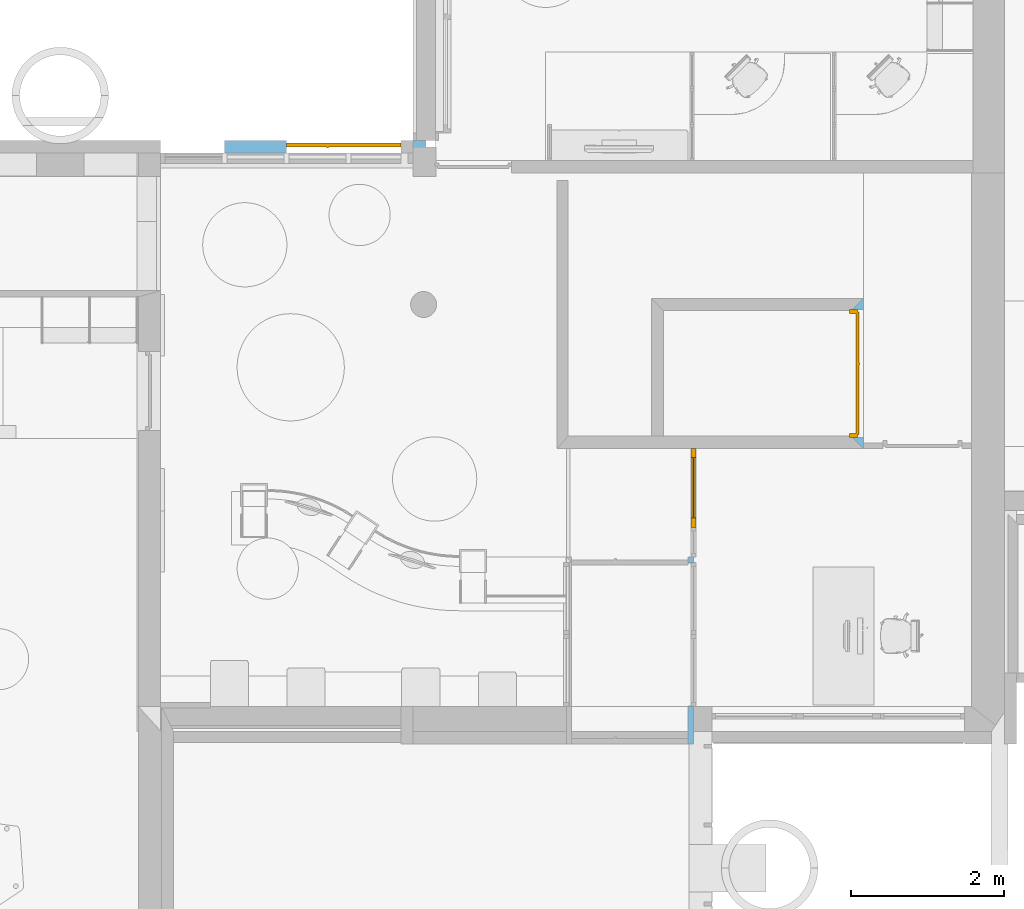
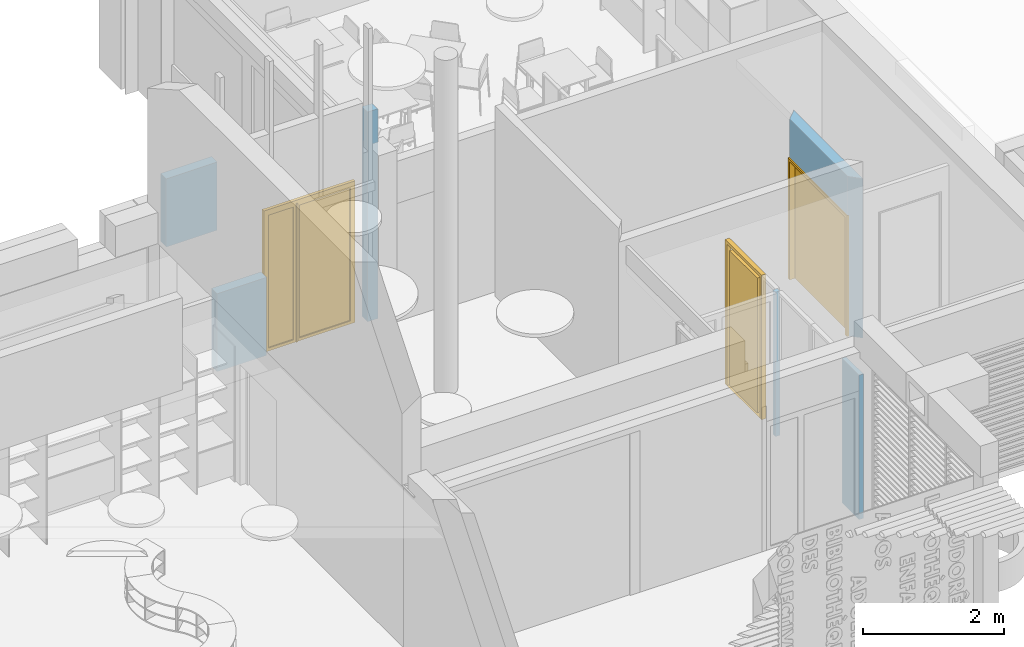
# One storey, part 43 of 64: 2 windows, 1 door, 10 openings, plus 3 elements that do not belong to this part.
"""IFC2X3 building model written with IfcOpenShell, lengths in metres."""

from ifc_helpers import new_model, entity, si_unit, converted_unit, derived_unit, direction, frame, frame_2d, origin, place, context, subcontext, project, spatial, polyline, rectangle, outline, extrude, faceted_brep, source, transform, mapped, material, layer, layer_set, layer_usage, type_object, type_shapes, element, fill, save


model = new_model("IFC2X3")

# Units and contexts
model_context = context("Model", 3, precision=1e-05, world=origin(), true_north=direction((6.123031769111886e-17, 1.0)))
body_context = subcontext(model_context, "Body", "Model", "MODEL_VIEW")
ifc_project = project(units=[si_unit("LENGTHUNIT", "METRE"), si_unit("AREAUNIT", "SQUARE_METRE"), si_unit("VOLUMEUNIT", "CUBIC_METRE"), converted_unit("PLANEANGLEUNIT", "DEGREE", entity("IfcRatioMeasure", 0.017453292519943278), si_unit("PLANEANGLEUNIT", "RADIAN"), dimensions=[0, 0, 0, 0, 0, 0, 0]), si_unit("MASSUNIT", "GRAM", prefix="KILO"), derived_unit("MASSDENSITYUNIT", [(si_unit("MASSUNIT", "GRAM", prefix="KILO"), 1), (si_unit("LENGTHUNIT", "METRE"), -3)]), derived_unit("MOMENTOFINERTIAUNIT", [(si_unit("LENGTHUNIT", "METRE"), 4)]), si_unit("TIMEUNIT", "SECOND"), si_unit("FREQUENCYUNIT", "HERTZ"), si_unit("THERMODYNAMICTEMPERATUREUNIT", "DEGREE_CELSIUS"), derived_unit("THERMALTRANSMITTANCEUNIT", [(si_unit("MASSUNIT", "GRAM", prefix="KILO"), 1), (si_unit("THERMODYNAMICTEMPERATUREUNIT", "KELVIN"), -1), (si_unit("TIMEUNIT", "SECOND"), -3)]), derived_unit("THERMALCONDUCTANCEUNIT", [(si_unit("MASSUNIT", "GRAM", prefix="KILO"), 1), (si_unit("LENGTHUNIT", "METRE"), 1), (si_unit("THERMODYNAMICTEMPERATUREUNIT", "KELVIN"), -1), (si_unit("TIMEUNIT", "SECOND"), -3)]), derived_unit("VOLUMETRICFLOWRATEUNIT", [(si_unit("LENGTHUNIT", "METRE"), 3), (si_unit("TIMEUNIT", "SECOND"), -1)]), derived_unit("MASSFLOWRATEUNIT", [(si_unit("MASSUNIT", "GRAM", prefix="KILO"), 1), (si_unit("TIMEUNIT", "SECOND"), -1)]), derived_unit("ROTATIONALFREQUENCYUNIT", [(si_unit("TIMEUNIT", "SECOND"), -1)]), si_unit("ELECTRICCURRENTUNIT", "AMPERE"), si_unit("ELECTRICVOLTAGEUNIT", "VOLT"), si_unit("POWERUNIT", "WATT"), si_unit("FORCEUNIT", "NEWTON", prefix="KILO"), si_unit("ILLUMINANCEUNIT", "LUX"), si_unit("LUMINOUSFLUXUNIT", "LUMEN"), si_unit("LUMINOUSINTENSITYUNIT", "CANDELA"), derived_unit("USERDEFINED", [(si_unit("MASSUNIT", "GRAM", prefix="KILO"), -1), (si_unit("LENGTHUNIT", "METRE"), -2), (si_unit("TIMEUNIT", "SECOND"), 3), (si_unit("LUMINOUSFLUXUNIT", "LUMEN"), 1)]), derived_unit("USERDEFINED", [(si_unit("MASSUNIT", "GRAM", prefix="KILO"), 1), (si_unit("LENGTHUNIT", "METRE"), 3), (si_unit("TIMEUNIT", "SECOND"), -3), (si_unit("ELECTRICCURRENTUNIT", "AMPERE"), -2)]), derived_unit("USERDEFINED", [(si_unit("LENGTHUNIT", "METRE"), 2), (si_unit("TIMEUNIT", "SECOND"), -2)]), derived_unit("SOUNDPOWERUNIT", [(si_unit("MASSUNIT", "GRAM", prefix="KILO"), 1), (si_unit("LENGTHUNIT", "METRE"), 2), (si_unit("TIMEUNIT", "SECOND"), -3)]), derived_unit("SOUNDPRESSUREUNIT", [(si_unit("MASSUNIT", "GRAM", prefix="KILO"), 1), (si_unit("LENGTHUNIT", "METRE"), -1), (si_unit("TIMEUNIT", "SECOND"), -2)]), derived_unit("LINEARVELOCITYUNIT", [(si_unit("LENGTHUNIT", "METRE"), 1), (si_unit("TIMEUNIT", "SECOND"), -1)]), si_unit("PRESSUREUNIT", "PASCAL"), derived_unit("USERDEFINED", [(si_unit("LENGTHUNIT", "METRE"), -2), (si_unit("MASSUNIT", "GRAM", prefix="KILO"), 1), (si_unit("TIMEUNIT", "SECOND"), -2)]), derived_unit("LINEARFORCEUNIT", [(si_unit("MASSUNIT", "GRAM", prefix="KILO"), 1), (si_unit("LENGTHUNIT", "METRE"), 1), (si_unit("TIMEUNIT", "SECOND"), -2), (si_unit("LENGTHUNIT", "METRE"), -1)]), derived_unit("PLANARFORCEUNIT", [(si_unit("MASSUNIT", "GRAM", prefix="KILO"), 1), (si_unit("LENGTHUNIT", "METRE"), 1), (si_unit("TIMEUNIT", "SECOND"), -2), (si_unit("LENGTHUNIT", "METRE"), -2)]), derived_unit("SPECIFICHEATCAPACITYUNIT", [(si_unit("LENGTHUNIT", "METRE"), 2), (si_unit("TIMEUNIT", "SECOND"), -2), (si_unit("THERMODYNAMICTEMPERATUREUNIT", "KELVIN"), -1)]), derived_unit("VAPORPERMEABILITYUNIT", [(si_unit("TIMEUNIT", "SECOND"), 1), (si_unit("LENGTHUNIT", "METRE"), -1)]), derived_unit("DYNAMICVISCOSITYUNIT", [(si_unit("MASSUNIT", "GRAM", prefix="KILO"), 1), (si_unit("LENGTHUNIT", "METRE"), -1), (si_unit("TIMEUNIT", "SECOND"), -1)]), derived_unit("THERMALEXPANSIONCOEFFICIENTUNIT", [(si_unit("THERMODYNAMICTEMPERATUREUNIT", "KELVIN"), -1)])], contexts=[model_context])

# Site, building, storey
site_placement = place(None, origin())
site = spatial("IfcSite", under=ifc_project, at=site_placement, Name="Default", CompositionType="ELEMENT")
building_placement = place(site_placement, origin())
building = spatial("IfcBuilding", under=site, at=building_placement, CompositionType="ELEMENT")
storey_placement = place(building_placement, origin())
storey = spatial("IfcBuildingStorey", under=building, at=storey_placement, Name="REZ-DE-CHAUSSÉE", CompositionType="ELEMENT", Elevation=0.0)

# Wall, openings, window
ifc_material_1 = material(Name="Enduit - Jaune nature")
ifc_layer_1 = layer(ifc_material_1, 0.02)
ifc_material_2 = material(Name="Isolation - Fibre de verre")
ifc_layer_2 = layer(ifc_material_2, 0.14)
ifc_layer_set_1 = layer_set([ifc_layer_1, ifc_layer_2], Name="Mur de base:ABA ITE 140 + enduit 160")
ifc_layer_usage_1 = layer_usage(ifc_layer_set_1, "AXIS2", "NEGATIVE", 0.08)
wall_type_1 = type_object("IfcWallType", Name="Mur de base:ABA ITE 140 + enduit 160", PredefinedType="STANDARD", material=ifc_layer_set_1)
wall_1_placement = place(storey_placement, frame((117.38075227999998, 15.387209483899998, 0.0)))
wall_1 = element("IfcWallStandardCase", 1, at=wall_1_placement, inside=storey, type_object=wall_type_1, material=ifc_layer_usage_1, Name="MurExt-022", ObjectType="Mur de base:ABA ITE 140 + enduit 160", context=body_context, shape_type="SweptSolid", body=[
    extrude(outline(polyline([(0.0, -0.07999999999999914), (3.1399999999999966, -0.07999999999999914), (3.1399999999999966, 0.07999999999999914), (0.0, 0.07999999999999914), (0.0, -0.07999999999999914)]), holes=[polyline([(3.464999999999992, 0.07999999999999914), (3.464999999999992, -0.07999999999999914), (3.299999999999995, -0.07999999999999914), (3.299999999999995, 0.07999999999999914), (3.464999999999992, 0.07999999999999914)])]), origin(), (0.0, 0.0, 1.0), 3.6299999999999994),
])
opening_1_placement = place(wall_1_placement, frame((-117.38075227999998, -15.387209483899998, 0.0)))
opening_1 = element("IfcOpeningElement", 2, at=opening_1_placement, cuts=wall_1, Name="MurExt-022", ObjectType="Opening", context=body_context, shape_type="SweptSolid", body=[
    extrude(rectangle(XDim=2.45, YDim=1.494999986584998, at=frame_2d((0.0, 8.659739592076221e-15), x_axis=(1.0, 0.0))), frame((119.77325227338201, 15.225609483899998, 1.225), z_axis=(0.0, 1.0, 0.0), x_axis=(0.0, 0.0, -1.0)), (0.0, 0.0, 1.0), 0.32320000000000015),
])
opening_2_placement = place(wall_1_placement, frame((-117.38075227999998, -15.387209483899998, 0.0)))
element("IfcOpeningElement", 3, at=opening_2_placement, cuts=wall_1, Name="MurExt-022", ObjectType="Opening", context=body_context, shape_type="SweptSolid", body=[
    extrude(rectangle(XDim=2.45, YDim=0.8349999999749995, at=frame_2d((0.0, 8.659739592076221e-15), x_axis=(1.0, 0.0))), frame((117.79825227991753, 15.225609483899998, 1.225), z_axis=(0.0, 1.0, 0.0), x_axis=(0.0, 0.0, -1.0)), (0.0, 0.0, 1.0), 0.32320000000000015),
])
opening_3_placement = place(wall_1_placement, frame((-117.38075227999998, -15.387209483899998, 0.0)))
element("IfcOpeningElement", 4, at=opening_3_placement, cuts=wall_1, Name="MurExt-022", ObjectType="Opening", context=body_context, shape_type="SweptSolid", body=[
    extrude(rectangle(XDim=1.1799999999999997, YDim=0.6849999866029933, at=frame_2d((-2.7755575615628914e-16, -8.659739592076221e-15), x_axis=(1.0, 0.0))), frame((120.17825227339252, 15.225609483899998, 3.0399999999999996), z_axis=(0.0, 1.0, 0.0), x_axis=(0.0, 0.0, -1.0)), (0.0, 0.0, 1.0), 0.32320000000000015),
])
opening_4_placement = place(wall_1_placement, frame((-117.38075227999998, -15.387209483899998, 0.0)))
element("IfcOpeningElement", 5, at=opening_4_placement, cuts=wall_1, Name="MurExt-022", ObjectType="Opening", context=body_context, shape_type="SweptSolid", body=[
    extrude(rectangle(XDim=1.1799999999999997, YDim=0.8100000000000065, at=frame_2d((-2.7755575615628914e-16, 8.659739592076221e-15), x_axis=(1.0, 0.0))), frame((119.4307522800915, 15.225609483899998, 3.0399999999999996), z_axis=(0.0, 1.0, 0.0), x_axis=(0.0, 0.0, -1.0)), (0.0, 0.0, 1.0), 0.32320000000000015),
])
opening_5_placement = place(wall_1_placement, frame((-117.38075227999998, -15.387209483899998, 0.0)))
element("IfcOpeningElement", 6, at=opening_5_placement, cuts=wall_1, Name="MurExt-022", ObjectType="Opening", context=body_context, shape_type="SweptSolid", body=[
    extrude(rectangle(XDim=2.2799999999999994, YDim=0.8100000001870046, at=frame_2d((1.1102230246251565e-16, 0.0), x_axis=(1.0, 0.0))), frame((118.620752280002, 15.225609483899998, 2.49), z_axis=(0.0, 1.0, 0.0), x_axis=(0.0, 0.0, -1.0)), (0.0, 0.0, 1.0), 0.32320000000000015),
])
ifc_material_3 = material(Name="Transp. - Verre clair (rapide)")
window_style_1 = type_object("IfcWindowStyle", Name="Fen-003", ConstructionType="NOTDEFINED", OperationType="NOTDEFINED", ParameterTakesPrecedence=False, Sizeable=False, material=ifc_material_3)
shared_shape_1 = source(origin(), body_context, "Body", "Brep", [
    faceted_brep([(1.494999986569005, -0.11160000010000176, 0.0), (1.4949999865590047, -0.16160000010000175, 0.0), (0.0, -0.16159999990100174, 0.0), (0.0, -0.11159999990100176, 0.0), (1.494999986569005, -0.11160000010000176, 2.45), (1.4949999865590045, -0.16160000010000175, 2.45), (0.0, -0.16159999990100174, 2.45), (1.4649999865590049, -0.1616000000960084, 0.0), (0.02999999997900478, -0.16159999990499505, 0.0), (0.02999999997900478, -0.16159999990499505, 2.3999999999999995), (1.4649999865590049, -0.1616000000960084, 2.3999999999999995), (0.0, -0.11159999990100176, 2.45), (1.4649999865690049, -0.11160000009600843, 0.0), (1.4649999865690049, -0.11160000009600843, 2.3999999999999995), (0.029999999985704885, -0.11159999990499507, 2.3999999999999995), (0.029999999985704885, -0.11159999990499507, 0.0), (0.5348999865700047, -0.11159999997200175, 2.3999999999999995), (0.5348999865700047, -0.11159999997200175, 0.0), (0.07999999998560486, -0.11159999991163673, 2.35), (0.07999999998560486, -0.11159999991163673, 0.05), (0.48499998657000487, -0.11159999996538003, 0.05), (0.48499998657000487, -0.11159999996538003, 2.35), (0.5348999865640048, -0.16159999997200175, 2.3999999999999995), (0.5348999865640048, -0.16159999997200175, 0.0), (0.07999999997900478, -0.16159999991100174, 2.35), (0.07999999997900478, -0.16159999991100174, 0.05), (0.48499998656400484, -0.16159999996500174, 0.05), (0.48499998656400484, -0.16159999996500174, 2.35), (0.029999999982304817, -0.13659999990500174, 2.3999999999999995), (0.029999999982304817, -0.13659999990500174, 0.0), (0.5348999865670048, -0.13659999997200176, 0.0), (0.5348999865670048, -0.13659999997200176, 2.3999999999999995), (0.4849999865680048, -0.13159999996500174, 0.05), (0.4849999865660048, -0.14159999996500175, 0.05), (0.07999999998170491, -0.14159999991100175, 0.05), (0.07999999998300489, -0.13159999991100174, 0.05), (0.4849999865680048, -0.13159999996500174, 2.35), (0.48499998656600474, -0.14159999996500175, 2.35), (0.07999999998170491, -0.14159999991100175, 2.35), (0.07999999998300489, -0.13159999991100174, 2.35), (0.5224999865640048, -0.16169999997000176, 0.002999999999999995), (0.5224999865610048, -0.17826666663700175, 0.002999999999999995), (0.5224999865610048, -0.17826666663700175, 2.397), (0.5224999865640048, -0.16169999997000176, 2.397), (0.5474999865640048, -0.16169999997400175, 0.003), (0.5474999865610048, -0.17826666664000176, 0.003), (0.5474999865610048, -0.17826666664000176, 2.397), (0.5474999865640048, -0.16169999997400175, 2.397), (0.5349999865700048, -0.11159999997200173, 0.0), (0.5349999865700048, -0.11159999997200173, 2.3999999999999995), (1.4149999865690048, -0.1116000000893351, 2.35), (0.5849999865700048, -0.1115999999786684, 2.35), (0.5849999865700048, -0.1115999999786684, 0.05), (1.4149999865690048, -0.1116000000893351, 0.05), (0.5349999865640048, -0.16159999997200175, 0.0), (0.5349999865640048, -0.16159999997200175, 2.3999999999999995), (1.4149999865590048, -0.16160000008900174, 2.35), (0.5849999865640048, -0.16159999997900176, 2.35), (0.5849999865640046, -0.16159999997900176, 0.05), (1.4149999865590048, -0.16160000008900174, 0.05), (0.5349999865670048, -0.13659999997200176, 0.0), (0.5349999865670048, -0.13659999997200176, 2.3999999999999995), (1.4649999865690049, -0.13660000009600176, 0.0), (1.4649999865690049, -0.13660000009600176, 2.3999999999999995), (0.5849999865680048, -0.13159999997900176, 0.05), (1.4149999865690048, -0.13160000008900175, 0.05), (1.4149999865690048, -0.14160000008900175, 0.05), (0.5849999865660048, -0.14159999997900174, 0.05), (0.5849999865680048, -0.13159999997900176, 2.35), (1.4149999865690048, -0.13160000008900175, 2.35), (1.4149999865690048, -0.14160000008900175, 2.35), (0.5849999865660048, -0.14159999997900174, 2.35)], [[[0, 1, 2, 3]], [[4, 5, 1, 0]], [[1, 5, 6, 2], [7, 8, 9, 10]], [[3, 2, 6, 11]], [[0, 3, 11, 4], [12, 13, 14, 15]], [[11, 6, 5, 4]], [[15, 8, 7, 12]], [[14, 9, 8, 15]], [[13, 10, 9, 14]], [[12, 7, 10, 13]], [[14, 16, 17, 15], [18, 19, 20, 21]], [[14, 9, 22, 16]], [[17, 16, 22, 23]], [[17, 23, 8, 15]], [[15, 8, 9, 14]], [[18, 24, 25, 19]], [[25, 26, 20, 19]], [[26, 27, 21, 20]], [[21, 27, 24, 18]], [[23, 22, 9, 8], [25, 24, 27, 26]], [[15, 14, 28, 29]], [[30, 17, 15, 29]], [[31, 16, 14, 28]], [[29, 28, 9, 8]], [[23, 30, 29, 8]], [[22, 31, 28, 9]], [[32, 33, 34, 35]], [[36, 37, 33, 32]], [[33, 37, 38, 34]], [[35, 34, 38, 39]], [[32, 35, 39, 36]], [[39, 38, 37, 36]], [[40, 41, 42, 43]], [[40, 44, 45, 41]], [[41, 45, 46, 42]], [[43, 42, 46, 47]], [[44, 40, 43, 47]], [[45, 44, 47, 46]], [[13, 12, 48, 49], [50, 51, 52, 53]], [[12, 13, 10, 7]], [[54, 48, 12, 7]], [[55, 49, 48, 54]], [[13, 49, 55, 10]], [[51, 50, 56, 57]], [[58, 52, 51, 57]], [[59, 53, 52, 58]], [[50, 53, 59, 56]], [[55, 54, 7, 10], [59, 58, 57, 56]], [[48, 60, 61, 49]], [[12, 62, 63, 13]], [[48, 60, 62, 12]], [[49, 61, 63, 13]], [[60, 54, 55, 61]], [[62, 7, 10, 63]], [[60, 54, 7, 62]], [[61, 55, 10, 63]], [[64, 65, 66, 67]], [[64, 68, 69, 65]], [[65, 69, 70, 66]], [[67, 66, 70, 71]], [[68, 64, 67, 71]], [[69, 68, 71, 70]]]),
])
type_shapes(window_style_1, [shared_shape_1])
window_1_placement = place(opening_1_placement, frame((119.02575228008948, 15.5488094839, 0.0)))
window_1 = element("IfcWindow", 7, at=window_1_placement, inside=storey, type_object=window_style_1, material=ifc_material_3, Name="Fen-003 52853:Fen-003 52853", ObjectType="Fen-003 52853:Fen-003 52853", OverallHeight=2.45, OverallWidth=1.494999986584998, context=body_context, shape_type="MappedRepresentation", body=[
    mapped(shared_shape_1, transform((0.0, 0.0, 0.0), scale=1.0)),
])
fill(opening_1, window_1)

# Wall, opening, door
ifc_material_4 = material(Name="Appareillage - Pierre taillé")
ifc_layer_3 = layer(ifc_material_4, 0.16)
ifc_layer_set_2 = layer_set([ifc_layer_3], Name="Mur de base:Struct. - Pierre 160")
ifc_layer_usage_2 = layer_usage(ifc_layer_set_2, "AXIS2", "NEGATIVE", 0.08)
wall_type_2 = type_object("IfcWallType", Name="Mur de base:Struct. - Pierre 160", PredefinedType="STANDARD", material=ifc_layer_set_2)
wall_2_placement = place(storey_placement, frame((126.480752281, 13.4072094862, 0.0), z_axis=(0.0, 0.0, 1.0), x_axis=(0.0, -1.0, 0.0)))
wall_2 = element("IfcWallStandardCase", 8, at=wall_2_placement, inside=storey, type_object=wall_type_2, material=ifc_layer_usage_2, Name="MurExt-012", ObjectType="Mur de base:Struct. - Pierre 160", context=body_context, shape_type="SweptSolid", body=[
    extrude(outline(polyline([(0.15999999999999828, -0.07999999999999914), (1.800000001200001, -0.07999999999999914), (1.9600000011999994, 0.07999999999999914), (0.0, 0.07999999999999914), (0.15999999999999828, -0.07999999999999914)])), origin(), (0.0, 0.0, 1.0), 2.76),
])
opening_6_placement = place(wall_2_placement, frame((13.4072094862, -126.480752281, 0.0), z_axis=(0.0, 0.0, 1.0), x_axis=(0.0, 1.0, 0.0)))
opening_6 = element("IfcOpeningElement", 9, at=opening_6_placement, cuts=wall_2, Name="MurExt-012", ObjectType="Opening", context=body_context, shape_type="SweptSolid", body=[
    extrude(rectangle(XDim=2.09, YDim=1.6700000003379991, at=frame_2d((0.0, 0.0), x_axis=(0.0, 1.0))), frame((126.31755228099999, 12.427209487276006, 1.045), z_axis=(1.0, 0.0, 0.0), x_axis=(0.0, -1.0, 0.0)), (0.0, 0.0, 1.0), 0.3263999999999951),
])
ifc_material_5 = material(Name="Peinture - Gris clair")
door_style = type_object("IfcDoorStyle", Name="Por-003", ConstructionType="NOTDEFINED", OperationType="DOUBLE_DOOR_SINGLE_SWING", ParameterTakesPrecedence=False, Sizeable=False, material=ifc_material_5)
shared_shape_2 = source(origin(), body_context, "Body", "Brep", [
    faceted_brep([(0.0, -0.1632000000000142, 0.0), (0.0, -0.1632000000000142, 2.09), (1.670000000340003, -0.1632000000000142, 2.09), (1.670000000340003, -0.1632000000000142, 0.0), (1.6350000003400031, -0.1632000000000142, 0.0), (1.6350000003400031, -0.1632000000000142, 2.055), (0.03500000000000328, -0.1632000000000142, 2.055), (0.03500000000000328, -0.1632000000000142, 0.0), (0.0, -0.2632000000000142, 0.0), (0.0, -0.2632000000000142, 2.09), (1.670000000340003, -0.2632000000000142, 2.09), (1.670000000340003, -0.2632000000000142, 0.0), (1.6200000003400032, -0.2632000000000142, 0.0), (1.6200000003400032, -0.1782000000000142, 0.0), (1.6350000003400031, -0.1782000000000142, 0.0), (1.6350000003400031, -0.1782000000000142, 2.055), (0.03500000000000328, -0.1782000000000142, 2.055), (0.03500000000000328, -0.1782000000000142, 0.0), (0.05000000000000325, -0.1782000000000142, 0.0), (0.05000000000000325, -0.2632000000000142, 0.0), (1.6200000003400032, -0.2632000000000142, 2.04), (0.05000000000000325, -0.2632000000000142, 2.04), (1.6200000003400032, -0.1782000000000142, 2.04), (0.05000000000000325, -0.1782000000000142, 2.04), (1.6325000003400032, -0.1382000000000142, 0.0), (1.6325000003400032, -0.1782000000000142, 0.0), (0.7125000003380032, -0.1782000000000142, 0.0), (0.7125000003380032, -0.1382000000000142, 0.0), (1.6325000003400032, -0.1382000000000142, 2.055), (1.6325000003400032, -0.1782000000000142, 2.055), (0.7125000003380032, -0.1782000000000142, 2.055), (0.7125000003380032, -0.1382000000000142, 2.055), (0.03500000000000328, -0.1382000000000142, 0.0), (0.7100000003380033, -0.1382000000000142, 0.0), (0.7100000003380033, -0.1782000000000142, 0.0), (0.03500000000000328, -0.1382000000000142, 2.055), (0.7100000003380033, -0.1382000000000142, 2.055), (0.7100000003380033, -0.1782000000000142, 2.055), (0.6950000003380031, -0.1332000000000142, 0.0), (0.6950000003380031, -0.1332000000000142, 2.055), (0.7250000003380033, -0.1332000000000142, 2.055), (0.7250000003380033, -0.1332000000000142, 0.0), (0.6950000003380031, -0.1382000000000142, 0.0), (0.6950000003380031, -0.1382000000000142, 2.055), (0.7250000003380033, -0.1382000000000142, 2.055), (0.7250000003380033, -0.1382000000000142, 0.0)], [[[0, 1, 2, 3, 4, 5, 6, 7]], [[8, 9, 1, 0]], [[9, 10, 2, 1]], [[10, 11, 3, 2]], [[3, 11, 12, 13, 14, 4]], [[5, 4, 14, 15]], [[6, 5, 15, 16]], [[7, 6, 16, 17]], [[0, 7, 17, 18, 19, 8]], [[19, 8, 9, 10, 11, 12, 20, 21]], [[22, 13, 12, 20]], [[17, 16, 15, 14, 13, 22, 23, 18]], [[18, 23, 21, 19]], [[23, 22, 20, 21]], [[24, 25, 26, 27]], [[28, 29, 25, 24]], [[25, 29, 30, 26]], [[27, 26, 30, 31]], [[24, 27, 31, 28]], [[31, 30, 29, 28]], [[32, 33, 34, 17]], [[32, 35, 36, 33]], [[33, 36, 37, 34]], [[17, 34, 37, 16]], [[35, 32, 17, 16]], [[36, 35, 16, 37]], [[38, 39, 40, 41]], [[38, 42, 43, 39]], [[39, 43, 44, 40]], [[40, 44, 45, 41]], [[41, 45, 42, 38]], [[45, 44, 43, 42]]]),
])
type_shapes(door_style, [shared_shape_2])
door_placement = place(opening_6_placement, frame((126.643952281, 13.262209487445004, 0.0), z_axis=(0.0, 0.0, 1.0), x_axis=(0.0, -1.0, 0.0)))
door = element("IfcDoor", 10, at=door_placement, inside=storey, type_object=door_style, material=ifc_material_5, Name="Por-003 12459:Por-003 12459", ObjectType="Por-003 12459:Por-003 12459", OverallHeight=2.09, OverallWidth=1.6700000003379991, context=body_context, shape_type="MappedRepresentation", body=[
    mapped(shared_shape_2, transform((0.0, 0.0, 0.0), scale=1.0)),
])
fill(opening_6, door)

# Wall, openings, window
ifc_material_6 = material(Name="Plâtre - Plaques de plâtre")
ifc_layer_4 = layer(ifc_material_6, 0.013)
ifc_layer_5 = layer(ifc_material_2, 0.044)
ifc_layer_6 = layer(ifc_material_6, 0.013)
ifc_layer_set_3 = layer_set([ifc_layer_4, ifc_layer_5, ifc_layer_6], Name="Mur de base:ABA cloison 7cm 70")
ifc_layer_usage_3 = layer_usage(ifc_layer_set_3, "AXIS2", "NEGATIVE", 0.034999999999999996)
wall_type_3 = type_object("IfcWallType", Name="Mur de base:ABA cloison 7cm 70", PredefinedType="STANDARD", material=ifc_layer_set_3)
wall_3_placement = place(storey_placement, frame((124.30575228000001, 10.027209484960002, 0.0), z_axis=(0.0, 0.0, 1.0), x_axis=(0.0, -1.0, 0.0)))
wall_3 = element("IfcWallStandardCase", 11, at=wall_3_placement, inside=storey, type_object=wall_type_3, material=ifc_layer_usage_3, Name="MurExt-025", ObjectType="Mur de base:ABA cloison 7cm 70", context=body_context, shape_type="SweptSolid", body=[
    extrude(rectangle(XDim=0.06999999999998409, YDim=3.8600000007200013, at=frame_2d((0.5100000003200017, 0.0), x_axis=(0.0, -1.0))), origin(), (0.0, 0.0, 1.0), 2.4999999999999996),
])
opening_7_placement = place(wall_3_placement, frame((10.027209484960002, -124.30575228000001, 0.0), z_axis=(0.0, 0.0, 1.0), x_axis=(0.0, 1.0, 0.0)))
element("IfcOpeningElement", 12, at=opening_7_placement, cuts=wall_3, Name="MurExt-025", ObjectType="Opening", context=body_context, shape_type="SweptSolid", body=[
    extrude(rectangle(XDim=2.4999999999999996, YDim=0.9399999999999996, at=frame_2d((-5.551115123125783e-16, 0.0), x_axis=(0.0, 1.0))), frame((124.23505228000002, 8.54720948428, 1.2499999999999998), z_axis=(1.0, 0.0, 0.0), x_axis=(0.0, 1.0, 0.0)), (0.0, 0.0, 1.0), 0.14139999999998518),
])
opening_8_placement = place(wall_3_placement, frame((10.027209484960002, -124.30575228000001, 0.0), z_axis=(0.0, 0.0, 1.0), x_axis=(0.0, 1.0, 0.0)))
element("IfcOpeningElement", 13, at=opening_8_placement, cuts=wall_3, Name="MurExt-025", ObjectType="Opening", context=body_context, shape_type="SweptSolid", body=[
    extrude(rectangle(XDim=2.4999999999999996, YDim=0.9399999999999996, at=frame_2d((-5.551115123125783e-16, 0.0), x_axis=(0.0, 1.0))), frame((124.23505228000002, 9.487209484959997, 1.2499999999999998), z_axis=(1.0, 0.0, 0.0), x_axis=(0.0, 1.0, 0.0)), (0.0, 0.0, 1.0), 0.14139999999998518),
])
opening_9_placement = place(wall_3_placement, frame((10.027209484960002, -124.30575228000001, 0.0), z_axis=(0.0, 0.0, 1.0), x_axis=(0.0, 1.0, 0.0)))
opening_9 = element("IfcOpeningElement", 14, at=opening_9_placement, cuts=wall_3, Name="MurExt-025", ObjectType="Opening", context=body_context, shape_type="SweptSolid", body=[
    extrude(rectangle(XDim=2.4999999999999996, YDim=1.0299999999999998, at=frame_2d((0.0, 0.0), x_axis=(0.0, 1.0))), frame((124.23505228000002, 10.93220948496, 1.2499999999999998), z_axis=(1.0, 0.0, 0.0), x_axis=(0.0, 1.0, 0.0)), (0.0, 0.0, 1.0), 0.14139999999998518),
])
opening_10_placement = place(wall_3_placement, frame((10.027209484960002, -124.30575228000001, 0.0), z_axis=(0.0, 0.0, 1.0), x_axis=(0.0, 1.0, 0.0)))
element("IfcOpeningElement", 15, at=opening_10_placement, cuts=wall_3, Name="MurExt-025", ObjectType="Opening", context=body_context, shape_type="SweptSolid", body=[
    extrude(rectangle(XDim=2.4999999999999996, YDim=0.3900000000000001, at=frame_2d((-1.0824674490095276e-15, 0.0), x_axis=(0.0, 1.0))), frame((124.23505228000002, 10.22220948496, 1.2499999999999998), z_axis=(1.0, 0.0, 0.0), x_axis=(0.0, 1.0, 0.0)), (0.0, 0.0, 1.0), 0.14139999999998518),
])
ifc_material_7 = material(Name="Peinture - Anthracite")
window_style_2 = type_object("IfcWindowStyle", Name="Fen-004", ConstructionType="NOTDEFINED", OperationType="NOTDEFINED", ParameterTakesPrecedence=False, Sizeable=False, material=ifc_material_7)
shared_shape_3 = source(origin(), body_context, "Body", "Brep", [
    faceted_brep([(0.0, -0.0007000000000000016, 0.0), (1.0300000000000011, -0.0007000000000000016, 0.0), (1.0300000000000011, -0.0707, 0.0), (0.0, -0.0707, 0.0), (0.0, -0.0007000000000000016, 2.4999999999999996), (1.0300000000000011, -0.0007000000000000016, 2.4999999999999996), (0.050000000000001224, -0.0007000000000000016, 0.0), (0.9800000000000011, -0.0007000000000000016, 0.0), (0.9800000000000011, -0.0007000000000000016, 2.45), (0.050000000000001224, -0.0007000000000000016, 2.45), (1.0300000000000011, -0.0707, 2.4999999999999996), (0.0, -0.0707, 2.4999999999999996), (0.050000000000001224, -0.0707, 0.0), (0.050000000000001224, -0.0707, 2.45), (0.9800000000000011, -0.0707, 2.45), (0.9800000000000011, -0.0707, 0.0), (0.9100000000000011, -0.0007000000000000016, 2.38), (0.12000000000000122, -0.0007000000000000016, 2.38), (0.12000000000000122, -0.0007000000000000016, 0.05), (0.9100000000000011, -0.0007000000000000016, 0.05), (0.9100000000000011, -0.0707, 2.38), (0.12000000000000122, -0.0707, 2.38), (0.12000000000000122, -0.0707, 0.05), (0.9100000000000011, -0.0707, 0.05), (0.050000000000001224, -0.035699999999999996, 0.0), (0.050000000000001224, -0.035699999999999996, 2.45), (0.9800000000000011, -0.035699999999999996, 0.0), (0.9800000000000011, -0.035699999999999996, 2.45), (0.12000000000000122, -0.0307, 0.05), (0.9100000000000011, -0.0307, 0.05), (0.9100000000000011, -0.0407, 0.05), (0.12000000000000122, -0.0407, 0.05), (0.12000000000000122, -0.0307, 2.38), (0.9100000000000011, -0.0307, 2.38), (0.9100000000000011, -0.0407, 2.38), (0.12000000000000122, -0.0407, 2.38)], [[[0, 1, 2, 3]], [[0, 4, 5, 1], [6, 7, 8, 9]], [[1, 5, 10, 2]], [[3, 2, 10, 11], [12, 13, 14, 15]], [[4, 0, 3, 11]], [[5, 4, 11, 10]], [[7, 6, 12, 15]], [[8, 7, 15, 14]], [[9, 8, 14, 13]], [[6, 9, 13, 12]], [[8, 7, 6, 9], [16, 17, 18, 19]], [[7, 8, 14, 15]], [[12, 6, 7, 15]], [[13, 9, 6, 12]], [[8, 9, 13, 14]], [[17, 16, 20, 21]], [[22, 18, 17, 21]], [[23, 19, 18, 22]], [[16, 19, 23, 20]], [[13, 12, 15, 14], [23, 22, 21, 20]], [[6, 24, 25, 9]], [[7, 26, 27, 8]], [[6, 24, 26, 7]], [[9, 25, 27, 8]], [[24, 12, 13, 25]], [[26, 15, 14, 27]], [[24, 12, 15, 26]], [[25, 13, 14, 27]], [[28, 29, 30, 31]], [[28, 32, 33, 29]], [[29, 33, 34, 30]], [[31, 30, 34, 35]], [[32, 28, 31, 35]], [[33, 32, 35, 34]]]),
])
type_shapes(window_style_2, [shared_shape_3])
window_2_placement = place(opening_9_placement, frame((124.37645228, 11.447209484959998, 0.0), z_axis=(0.0, 0.0, 1.0), x_axis=(0.0, -1.0, 0.0)))
window_2 = element("IfcWindow", 16, at=window_2_placement, inside=storey, type_object=window_style_2, material=ifc_material_7, Name="Fen-004 27626:Fen-004 27626", ObjectType="Fen-004 27626:Fen-004 27626", OverallHeight=2.4999999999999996, OverallWidth=1.0299999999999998, context=body_context, shape_type="MappedRepresentation", body=[
    mapped(shared_shape_3, transform((0.0, 0.0, 0.0), scale=1.0)),
])
fill(opening_9, window_2)

save(model, "model.ifc")
